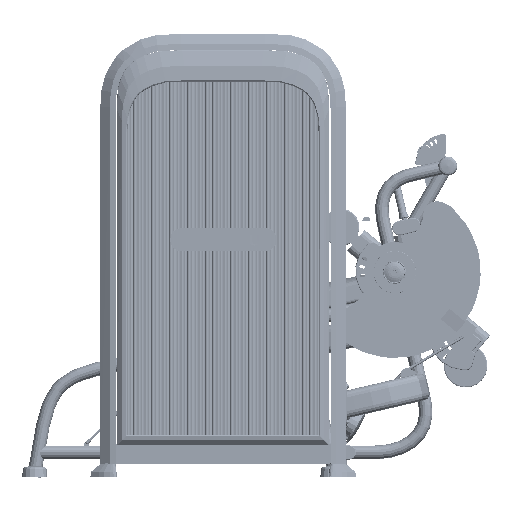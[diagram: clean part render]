
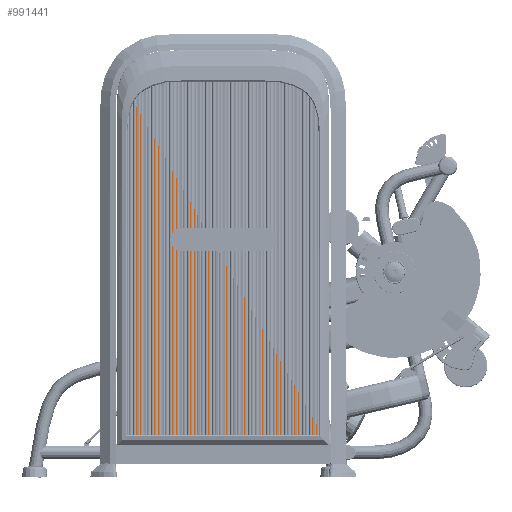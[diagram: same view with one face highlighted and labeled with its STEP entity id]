
A CAD part, left-side view. The second image highlights one B-rep face of the part: STEP entity #991441.
In plain terms, the highlighted planar face has unit normal (1, 0, 0).
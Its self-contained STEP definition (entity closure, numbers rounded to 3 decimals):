
#991401 = VERTEX_POINT('',#991402);
#991402 = CARTESIAN_POINT('',(-566.812,1309.374,
    646.993));
#991423 = EDGE_CURVE('',#991401,#991424,#991426,.T.);
#991424 = VERTEX_POINT('',#991425);
#991425 = CARTESIAN_POINT('',(-566.812,560.373,
    -670.163));
#991426 = LINE('',#991427,#991428);
#991427 = CARTESIAN_POINT('',(-566.812,1309.374,
    646.993));
#991428 = VECTOR('',#991429,1.);
#991429 = DIRECTION('',(0.,-0.494,-0.869));
#991441 = ADVANCED_FACE('',(#991442),#991459,.F.);
#991442 = FACE_BOUND('',#991443,.F.);
#991443 = EDGE_LOOP('',(#991444,#991445,#991453));
#991444 = ORIENTED_EDGE('',*,*,#991423,.F.);
#991445 = ORIENTED_EDGE('',*,*,#991446,.T.);
#991446 = EDGE_CURVE('',#991401,#991447,#991449,.T.);
#991447 = VERTEX_POINT('',#991448);
#991448 = CARTESIAN_POINT('',(-566.812,1309.374,
    -670.163));
#991449 = LINE('',#991450,#991451);
#991450 = CARTESIAN_POINT('',(-566.812,1309.374,
    646.993));
#991451 = VECTOR('',#991452,1.);
#991452 = DIRECTION('',(0.,0.,-1.));
#991453 = ORIENTED_EDGE('',*,*,#991454,.T.);
#991454 = EDGE_CURVE('',#991447,#991424,#991455,.T.);
#991455 = LINE('',#991456,#991457);
#991456 = CARTESIAN_POINT('',(-566.812,1309.374,
    -670.163));
#991457 = VECTOR('',#991458,1.);
#991458 = DIRECTION('',(0.,-1.,0.));
#991459 = PLANE('',#991460);
#991460 = AXIS2_PLACEMENT_3D('',#991461,#991462,#991463);
#991461 = CARTESIAN_POINT('',(-566.812,1072.607,
    -149.318));
#991462 = DIRECTION('',(-1.,-0.,-0.));
#991463 = DIRECTION('',(0.,0.,-1.));
